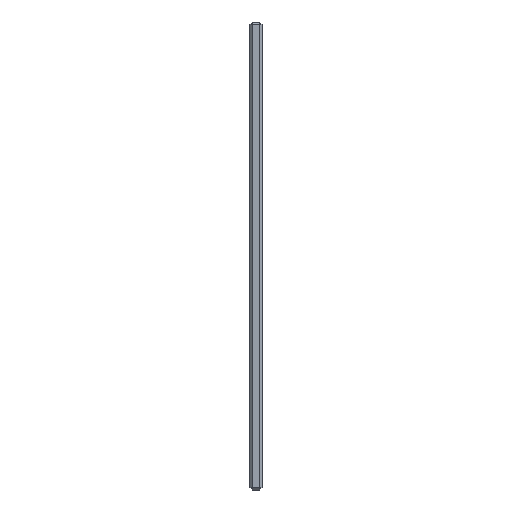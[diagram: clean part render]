
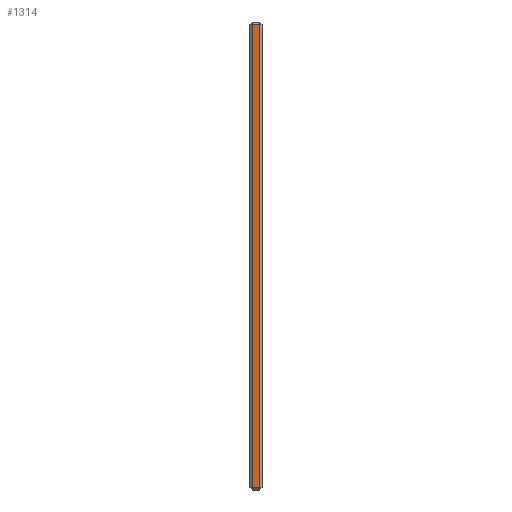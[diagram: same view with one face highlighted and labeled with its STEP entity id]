
A CAD part, left-side view. The second image highlights one B-rep face of the part: STEP entity #1314.
In plain terms, the highlighted planar face has unit normal (-1, 0, 0).
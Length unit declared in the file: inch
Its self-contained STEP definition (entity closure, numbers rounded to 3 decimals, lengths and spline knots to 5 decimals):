
#12 = EDGE_CURVE ( 'NONE', #350, #1743, #1167, .T. ) ;
#44 = ORIENTED_EDGE ( 'NONE', *, *, #583, .T. ) ;
#144 = CARTESIAN_POINT ( 'NONE',  ( -9.9375, 0.2, -4.875 ) ) ;
#224 = ORIENTED_EDGE ( 'NONE', *, *, #1511, .T. ) ;
#350 = VERTEX_POINT ( 'NONE', #1827 ) ;
#402 = VECTOR ( 'NONE', #769, 39.37008 ) ;
#511 = CARTESIAN_POINT ( 'NONE',  ( -9.9375, 0.2, 4.825 ) ) ;
#533 = EDGE_LOOP ( 'NONE', ( #745, #1509, #224, #44 ) ) ;
#543 = VECTOR ( 'NONE', #1065, 39.37008 ) ;
#583 = EDGE_CURVE ( 'NONE', #1153, #1822, #818, .T. ) ;
#671 = DIRECTION ( 'NONE',  ( 0., 0., -1. ) ) ;
#727 = CARTESIAN_POINT ( 'NONE',  ( -9.9375, 0.25, -4.825 ) ) ;
#745 = ORIENTED_EDGE ( 'NONE', *, *, #1601, .T. ) ;
#769 = DIRECTION ( 'NONE',  ( 0., 1., 0. ) ) ;
#818 = LINE ( 'NONE', #1618, #402 ) ;
#1065 = DIRECTION ( 'NONE',  ( 0., 0., 1. ) ) ;
#1066 = CARTESIAN_POINT ( 'NONE',  ( -9.9375, 0.05, 4.825 ) ) ;
#1081 = VECTOR ( 'NONE', #1615, 39.37008 ) ;
#1153 = VERTEX_POINT ( 'NONE', #1066 ) ;
#1167 = LINE ( 'NONE', #727, #1715 ) ;
#1231 = AXIS2_PLACEMENT_3D ( 'NONE', #1552, #1699, #671 ) ;
#1309 = DIRECTION ( 'NONE',  ( 0., -1., 0. ) ) ;
#1314 = ADVANCED_FACE ( 'Placement Plane', ( #1835 ), #1420, .F. ) ;
#1327 = CARTESIAN_POINT ( 'NONE',  ( -9.9375, 0.05, -4.875 ) ) ;
#1420 = PLANE ( 'NONE',  #1231 ) ;
#1509 = ORIENTED_EDGE ( 'NONE', *, *, #12, .T. ) ;
#1511 = EDGE_CURVE ( 'NONE', #1743, #1153, #1711, .T. ) ;
#1552 = CARTESIAN_POINT ( 'NONE',  ( -9.9375, 0.25, -4.875 ) ) ;
#1601 = EDGE_CURVE ( 'NONE', #1822, #350, #1686, .T. ) ;
#1615 = DIRECTION ( 'NONE',  ( 0., 0., -1. ) ) ;
#1618 = CARTESIAN_POINT ( 'NONE',  ( -9.9375, 0.25, 4.825 ) ) ;
#1686 = LINE ( 'NONE', #144, #1081 ) ;
#1699 = DIRECTION ( 'NONE',  ( 1., 0., 0. ) ) ;
#1711 = LINE ( 'NONE', #1327, #543 ) ;
#1715 = VECTOR ( 'NONE', #1309, 39.37008 ) ;
#1743 = VERTEX_POINT ( 'NONE', #1804 ) ;
#1804 = CARTESIAN_POINT ( 'NONE',  ( -9.9375, 0.05, -4.825 ) ) ;
#1822 = VERTEX_POINT ( 'NONE', #511 ) ;
#1827 = CARTESIAN_POINT ( 'NONE',  ( -9.9375, 0.2, -4.825 ) ) ;
#1835 = FACE_OUTER_BOUND ( 'NONE', #533, .T. ) ;
